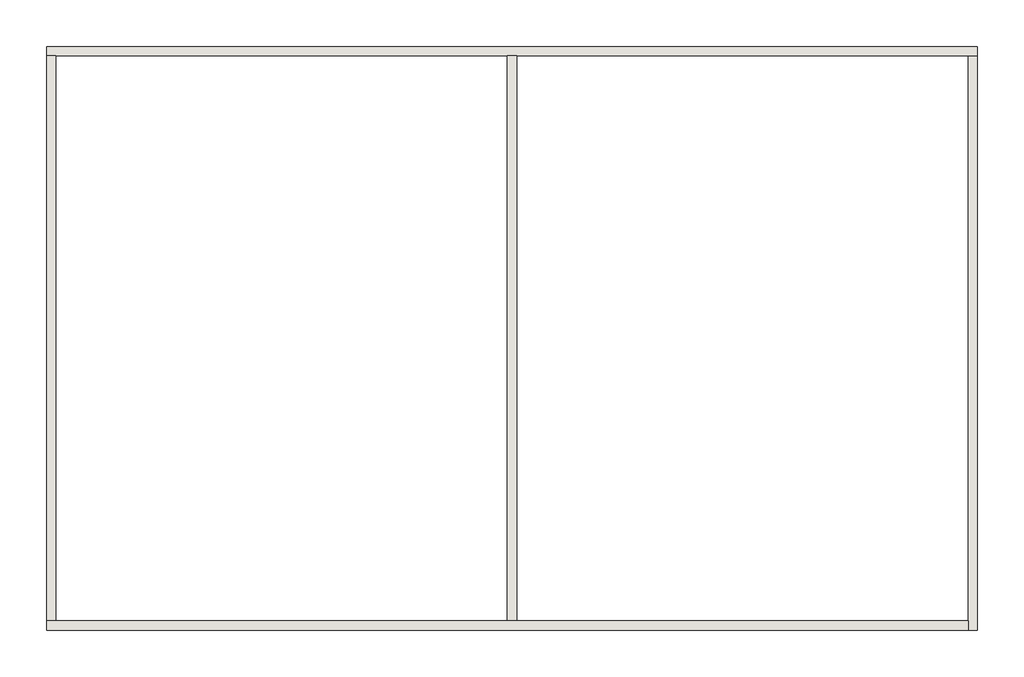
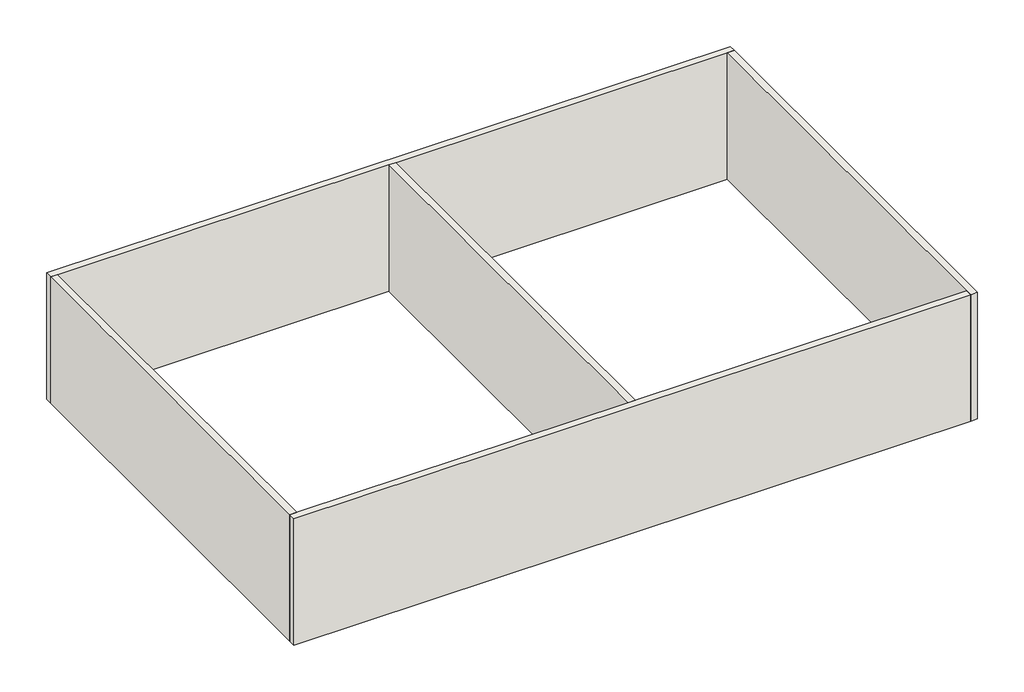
# Not in any storey: 5 walls.
"""IFC4 building model written with IfcOpenShell, lengths in millimetres."""

from ifc_helpers import new_model, si_unit, frame, origin, place, context, project, spatial, polyline, outline, extrude, faceted_brep, element, save

model = new_model("IFC4")

# Units and contexts
model_context = context("Model", 3, world=origin())
ifc_project = project(units=[si_unit("LENGTHUNIT", "METRE", prefix="MILLI")], contexts=[model_context])

# Site, building
site = spatial("IfcSite", under=ifc_project)
building = spatial("IfcBuilding", under=site)

# Walls
placement = place(None, origin())
element("IfcWall", 1, ObjectType="M8 - 8\" CMU", at=placement, inside=building, context=model_context, shape_type="Brep", body=[
    faceted_brep([(3937.9586962, -6898.5165243, -914.4), (4131.6336962, -6898.5165243, -914.4), (13442.3211962, -6898.5165243, -914.4), (13635.9961962, -6898.5165243, -914.4), (22946.6836962, -6898.5165243, -914.4), (23140.3586962, -6898.5165243, -914.4), (23140.3586962, -6898.5165243, 2844.8), (22946.6836962, -6898.5165243, 2844.8), (13635.9961962, -6898.5165243, 2844.8), (13442.3211962, -6898.5165243, 2844.8), (4131.6336962, -6898.5165243, 2844.8), (3937.9586962, -6898.5165243, 2844.8), (3937.9586962, -6704.8415243, -914.4), (3937.9586962, -6704.8415243, 2844.8), (23140.3586962, -6704.8415243, 2844.8), (23140.3586962, -6704.8415243, -914.4)], [[[0, 1, 2, 3, 4, 5, 6, 7, 8, 9, 10, 11]], [[12, 13, 14, 15]], [[5, 4, 3, 2, 1, 0, 12, 15]], [[11, 10, 9, 8, 7, 6, 14, 13]], [[6, 5, 15, 14]], [[0, 11, 13, 12]]]),
])
element("IfcWall", 2, ObjectType="M8 - 8\" CMU", at=placement, inside=building, context=model_context, shape_type="Brep", body=[
    faceted_brep([(22946.6836962, -6898.5165243, -914.4), (22946.6836962, -18550.7665243, -914.4), (22946.6836962, -18744.4415243, -914.4), (22946.6836962, -18744.4415243, 2844.8), (22946.6836962, -18550.7665243, 2844.8), (22946.6836962, -6898.5165243, 2844.8), (23140.3586962, -6898.5165243, -914.4), (23140.3586962, -6898.5165243, 2844.8), (23140.3586962, -18744.4415243, 2844.8), (23140.3586962, -18744.4415243, -914.4)], [[[0, 1, 2, 3, 4, 5]], [[6, 7, 8, 9]], [[2, 1, 0, 6, 9]], [[5, 4, 3, 8, 7]], [[0, 5, 7, 6]], [[3, 2, 9, 8]]]),
])
element("IfcWall", 3, ObjectType="M8 - 8\" CMU", at=placement, inside=building, context=model_context, shape_type="Brep", body=[
    faceted_brep([(22946.6836962, -18550.7665243, -914.4), (13635.9961962, -18550.7665243, -914.4), (13442.3211962, -18550.7665243, -914.4), (4131.6336962, -18550.7665243, -914.4), (3937.9586962, -18550.7665243, -914.4), (3937.9586962, -18550.7665243, 2844.8), (4131.6336962, -18550.7665243, 2844.8), (13442.3211962, -18550.7665243, 2844.8), (13635.9961962, -18550.7665243, 2844.8), (22946.6836962, -18550.7665243, 2844.8), (22946.6836962, -18744.4415243, -914.4), (22946.6836962, -18744.4415243, 2844.8), (3937.9586962, -18744.4415243, 2844.8), (3937.9586962, -18744.4415243, -914.4)], [[[0, 1, 2, 3, 4, 5, 6, 7, 8, 9]], [[10, 11, 12, 13]], [[4, 3, 2, 1, 0, 10, 13]], [[9, 8, 7, 6, 5, 12, 11]], [[0, 9, 11, 10]], [[5, 4, 13, 12]]]),
])
element("IfcWall", 4, ObjectType="M8 - 8\" CMU", at=placement, inside=building, context=model_context, shape_type="SweptSolid", body=[
    extrude(outline(polyline([(4131.6336962, -6898.5165243), (4131.6336962, -18550.7665243), (3937.9586962, -18550.7665243), (3937.9586962, -6898.5165243), (4131.6336962, -6898.5165243)])), frame((0.0, 0.0, -914.4), z_axis=(0.0, 0.0, 1.0), x_axis=(1.0, 0.0, 0.0)), (0.0, 0.0, 1.0), 3759.2),
])
element("IfcWall", 5, ObjectType="M8 - 8\" CMU", at=placement, inside=building, context=model_context, shape_type="SweptSolid", body=[
    extrude(outline(polyline([(13442.3211962, -18550.7665243), (13442.3211962, -6898.5165243), (13635.9961962, -6898.5165243), (13635.9961962, -18550.7665243), (13442.3211962, -18550.7665243)])), frame((0.0, 0.0, -914.4), z_axis=(0.0, 0.0, 1.0), x_axis=(1.0, 0.0, 0.0)), (0.0, 0.0, 1.0), 3759.2),
])

save(model, "model.ifc")
